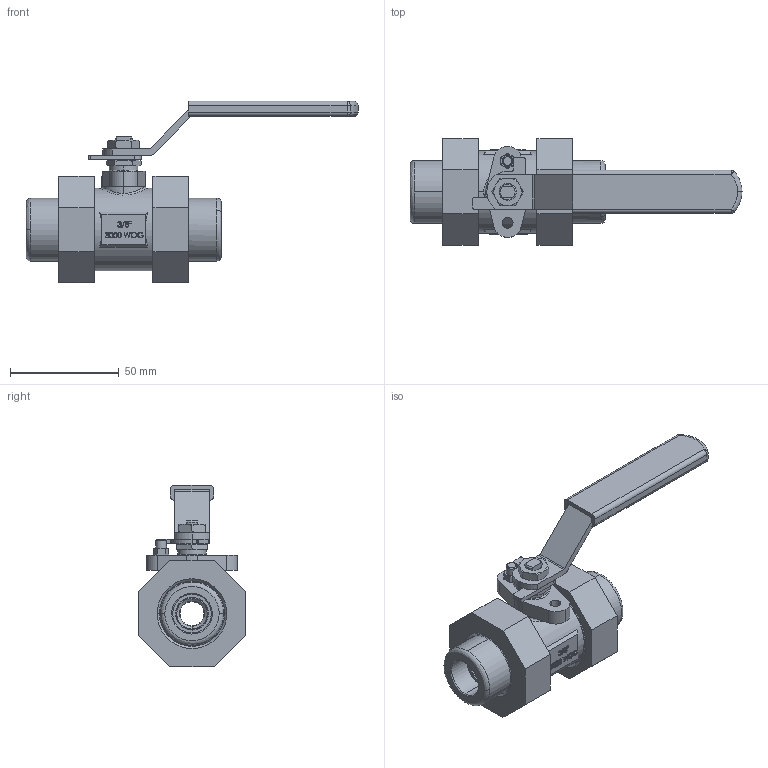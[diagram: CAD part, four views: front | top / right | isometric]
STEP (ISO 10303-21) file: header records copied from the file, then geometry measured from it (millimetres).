
FILE_DESCRIPTION(('Open CASCADE Model'),'2;1');
FILE_NAME('Open CASCADE Shape Model','2021-10-26T10:04:39',('Author'),( 'Open CASCADE'),'Open CASCADE STEP processor 7.3','Open CASCADE 7.3' ,'Unknown');
FILE_SCHEMA(('AUTOMOTIVE_DESIGN { 1 0 10303 214 1 1 1 1 }'));
Length unit declared in the file: millimetre
Products named in the file (24): Open CASCADE STEP translator 7.3 1; Open CASCADE STEP translator 7.3 1.1; Open CASCADE STEP translator 7.3 1.2; Open CASCADE STEP translator 7.3 1.3; Open CASCADE STEP translator 7.3 1.4; Open CASCADE STEP translator 7.3 1.5; Open CASCADE STEP translator 7.3 1.6; Open CASCADE STEP translator 7.3 1.7; Open CASCADE STEP translator 7.3 1.8; Open CASCADE STEP translator 7.3 1.9; Open CASCADE STEP translator 7.3 1.10; Open CASCADE STEP translator 7.3 1.11; Open CASCADE STEP translator 7.3 1.12; Open CASCADE STEP translator 7.3 1.13; Open CASCADE STEP translator 7.3 1.14; Open CASCADE STEP translator 7.3 1.15; Open CASCADE STEP translator 7.3 1.16; Open CASCADE STEP translator 7.3 1.17; Open CASCADE STEP translator 7.3 1.18; Open CASCADE STEP translator 7.3 1.19; Open CASCADE STEP translator 7.3 1.20; Open CASCADE STEP translator 7.3 1.21; Open CASCADE STEP translator 7.3 1.22; Open CASCADE STEP translator 7.3 1.23
Assembly tree (23 placements, depth 2):
  Open CASCADE STEP translator 7.3 1
    Open CASCADE STEP translator 7.3 1.1
    Open CASCADE STEP translator 7.3 1.2
    Open CASCADE STEP translator 7.3 1.3
    Open CASCADE STEP translator 7.3 1.4
    Open CASCADE STEP translator 7.3 1.5
    Open CASCADE STEP translator 7.3 1.6
    Open CASCADE STEP translator 7.3 1.7
    Open CASCADE STEP translator 7.3 1.8
    Open CASCADE STEP translator 7.3 1.9
    Open CASCADE STEP translator 7.3 1.10
    Open CASCADE STEP translator 7.3 1.11
    Open CASCADE STEP translator 7.3 1.12
    Open CASCADE STEP translator 7.3 1.13
    Open CASCADE STEP translator 7.3 1.14
    Open CASCADE STEP translator 7.3 1.15
    Open CASCADE STEP translator 7.3 1.16
    Open CASCADE STEP translator 7.3 1.17
    Open CASCADE STEP translator 7.3 1.18
    Open CASCADE STEP translator 7.3 1.19
    Open CASCADE STEP translator 7.3 1.20
    Open CASCADE STEP translator 7.3 1.21
    Open CASCADE STEP translator 7.3 1.22
    Open CASCADE STEP translator 7.3 1.23
Bounding box: 153 x 49 x 83.7 mm (x, y, z)
Volume: 126766.6 mm3; surface area: 66321.6 mm2
Topology: 23 solids, 23 shells, 841 faces, 2063 edges, 1326 vertices
Faces by surface type: plane 357, cylinder 197, bspline 174, cone 113
Entity records: 91880 total; most frequent: CARTESIAN_POINT 53021, DIRECTION 6296, ORIENTED_EDGE 4118, PCURVE 4118, DEFINITIONAL_REPRESENTATION 4118, LINE 3521, VECTOR 3521, EDGE_CURVE 2059
